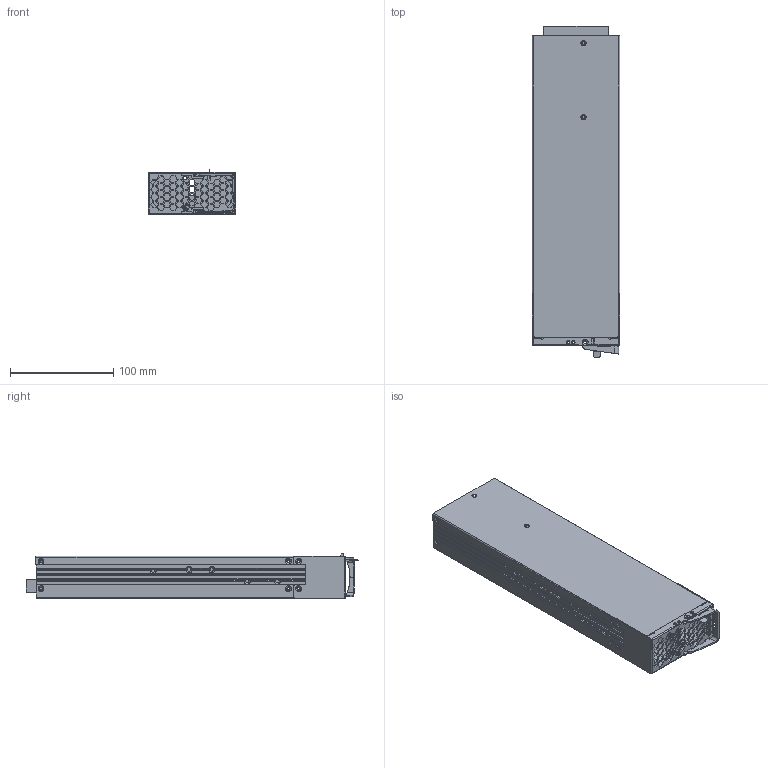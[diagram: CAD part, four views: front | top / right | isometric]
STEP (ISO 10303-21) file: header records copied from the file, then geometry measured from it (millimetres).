
FILE_DESCRIPTION(('Creo Elements/Direct Modeling STEP Export'),'2;1');
FILE_NAME('RCP-1600.stp','2017-06-07T 9:12:08',(''),(''),'PTC Creo Elements/Direct Modeling STEP processor for AP214 (Solid Model)','PTC Creo Elements/Direct Modeling 19.0 09-May-2014 (C) Parametric Technology GmbH','');
FILE_SCHEMA(('AUTOMOTIVE_DESIGN { 1 0 10303 214 1 1 1 1 }'));
Length unit declared in the file: millimetre
Products named in the file (31): e32; a2.1; B單機.1.1; B單機.1; B單機; p7.1.1; p7.1; C-B; C-C; a2; M3-7L.1; ÊU£\; B-2; 把手B; a1; FN; a1.3; MHL-24; MHL-24.stp; SS; hs; 952.1; TR-4RL; TR-4RL.stp; mos; VR.1; V; 單機.1.1.1.1; RCP-1600
Assembly tree (33 placements, depth 6):
  RCP-1600
    單機.1.1.1.1
      VR.1  x2
      V
      a1
        mos
          TR-4RL.stp
            TR-4RL
        952.1
          hs
          SS
          FN  x2
          MHL-24.stp
            MHL-24
          a1
          a1.3
        a1
          把手B
            B-2
        ÊU£\
          M3-7L.1
      a2
        C-C
          p7.1
        C-B
          p7.1
          p7.1.1
          B單機
          B單機.1
          B單機.1.1
      a2.1
        e32
Bounding box: 85 x 321.79 x 43.1 mm (x, y, z)
Volume: 211584.5 mm3; surface area: 264977.9 mm2
Topology: 14 solids, 14 shells, 1146 faces, 3220 edges, 2103 vertices
Faces by surface type: plane 680, cylinder 351, cone 96, torus 18, bspline 1
Entity records: 38525 total; most frequent: CARTESIAN_POINT 10152, ORIENTED_EDGE 6146, DIRECTION 5190, EDGE_CURVE 3073, VECTOR 2078, LINE 2078, VERTEX_POINT 2005, AXIS2_PLACEMENT_3D 1556
